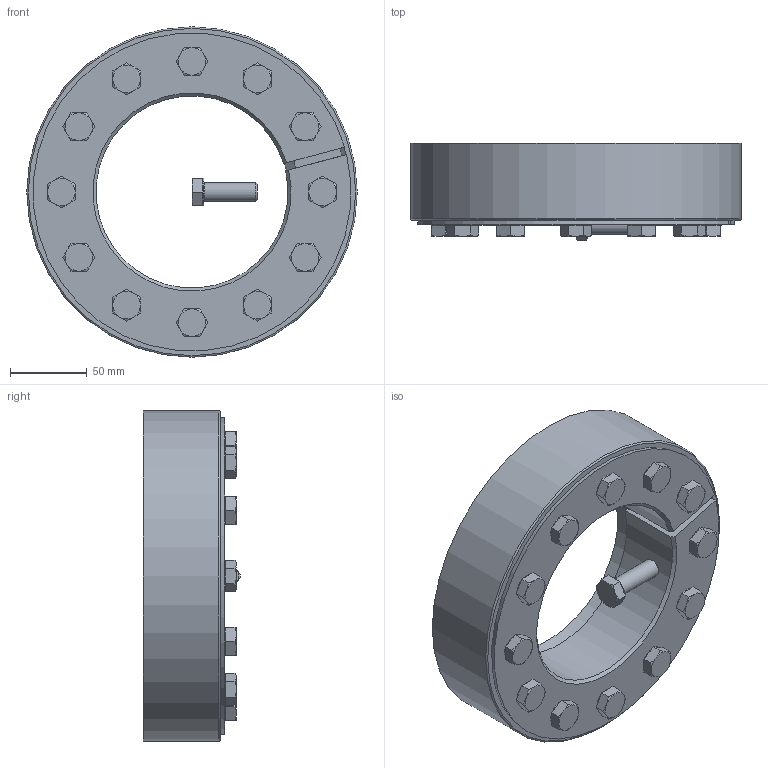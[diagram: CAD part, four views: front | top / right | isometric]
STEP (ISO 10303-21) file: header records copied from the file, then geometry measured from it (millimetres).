
FILE_DESCRIPTION( ( 'Unknown' ), '1' );
FILE_NAME( 'C:/Dokumente und Einstellungen/Sven/Desktop/homepage/cad - homepage/KBS19-1/KBS 19_1 - 125 x 215.stp', 'Unknown', ( 'Unknown' ), ( 'Unknown' ), 'XStep 1.0', 'Unknown', ' ' );
FILE_SCHEMA( ( 'automotive_design' ) );
Length unit declared in the file: millimetre
Products named in the file (3): Assem1; KBS 19_1 - 125 x 215; ISO 4017 - M12 x 35-N
Bounding box: 215 x 63.39 x 215 mm (x, y, z)
Volume: 2445828.7 mm3; surface area: 285491.9 mm2
Topology: 15 solids, 15 shells, 379 faces, 846 edges, 510 vertices
Faces by surface type: plane 213, cone 97, cylinder 54, torus 15
Full cylindrical faces by diameter (mm): 12 x37, 18 x13, 215 x2
Entity records: 1834 total; most frequent: CARTESIAN_POINT 329, DIRECTION 272, ORIENTED_EDGE 214, AXIS2_PLACEMENT_3D 117, EDGE_CURVE 107, EDGE_LOOP 97, VERTEX_POINT 78, FACE_OUTER_BOUND 69
